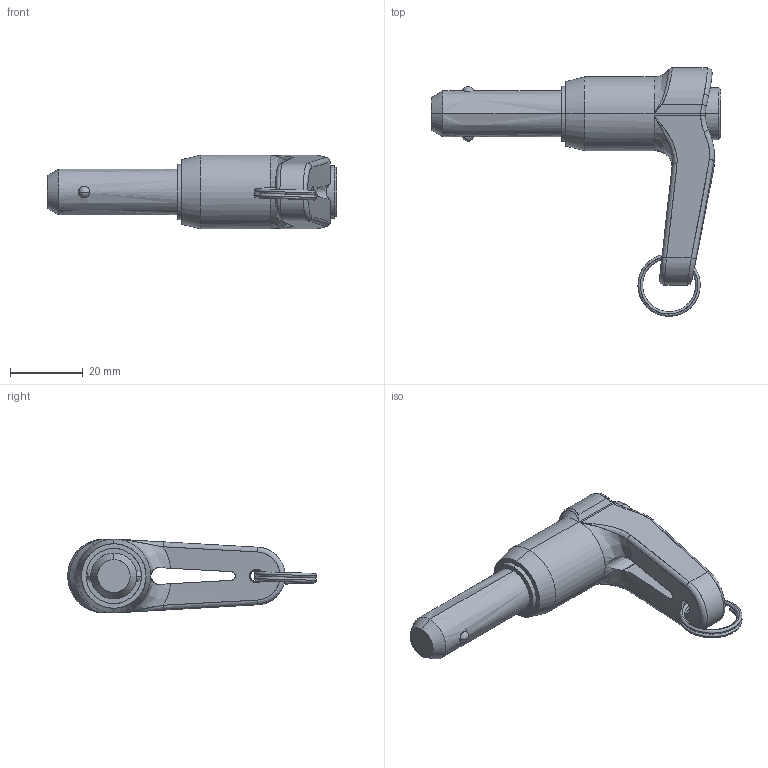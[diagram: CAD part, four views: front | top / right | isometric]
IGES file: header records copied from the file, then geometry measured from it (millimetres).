
Start section: SolidWorks IGES file using analytic representation for surfaces
Global section: file name: C:\Documents and Settings\IANO\My Documents\Wix and Auto CAD Work\CAD Models\Parametric Models\Wix Models\30000\33620_v2\33620_v2_20160606_IGES\33620.F010.igs; native system: SolidWorks 2009; preprocessor: SolidWorks 2009; author: IANO; date: 160615.130122; units: inch
Bounding box: 79.76 x 68.51 x 20.32 mm (x, y, z)
Surface area: 11040.4 mm2 (no closed solid volume)
Topology: 0 solids, 0 shells, 83 faces, 1222 edges, 1220 vertices
Faces by surface type: bspline 53, revolution 30
